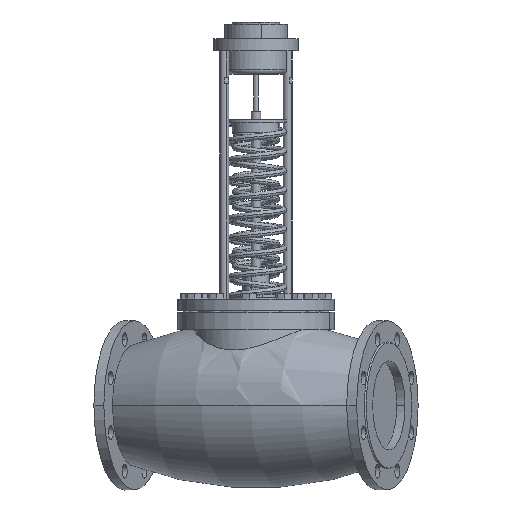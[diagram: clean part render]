
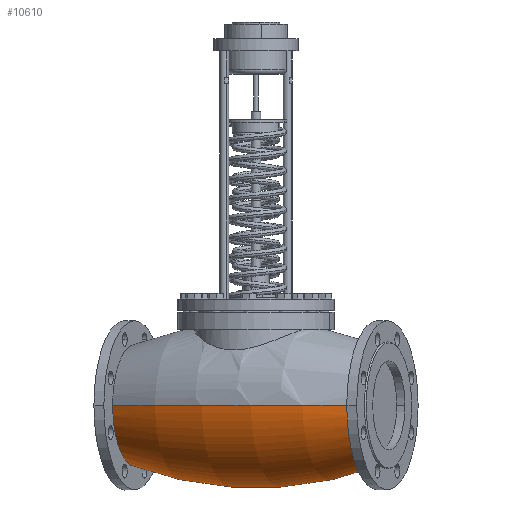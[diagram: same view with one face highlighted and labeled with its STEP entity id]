
A CAD part, left-side view. The second image highlights one B-rep face of the part: STEP entity #10610.
In plain terms, the highlighted toroidal (fillet/blend) face has major radius 528.398 mm and minor radius 667.465 mm.
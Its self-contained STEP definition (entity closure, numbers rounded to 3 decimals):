
#448 = DIRECTION ( 'NONE',  ( 0., 0., 1. ) ) ;
#592 = CIRCLE ( 'NONE', #2939, 667.465 ) ;
#1638 = CARTESIAN_POINT ( 'NONE',  ( 459.384, 0., 101.983 ) ) ;
#2090 = TOROIDAL_SURFACE ( 'NONE', #10260, -528.398, 667.465 ) ;
#2198 = EDGE_CURVE ( 'NONE', #13588, #14658, #592, .T. ) ;
#2564 = DIRECTION ( 'NONE',  ( -1., 0., 0. ) ) ;
#2939 = AXIS2_PLACEMENT_3D ( 'NONE', #6412, #11459, #8747 ) ;
#3003 = CARTESIAN_POINT ( 'NONE',  ( 20.616, 0., 0. ) ) ;
#4705 = DIRECTION ( 'NONE',  ( 0., 0., 1. ) ) ;
#5005 = CIRCLE ( 'NONE', #12388, 667.465 ) ;
#5127 = ORIENTED_EDGE ( 'NONE', *, *, #5666, .T. ) ;
#5473 = CARTESIAN_POINT ( 'NONE',  ( 459.384, 0., -101.983 ) ) ;
#5666 = EDGE_CURVE ( 'NONE', #5998, #13588, #16021, .T. ) ;
#5998 = VERTEX_POINT ( 'NONE', #5473 ) ;
#6322 = CARTESIAN_POINT ( 'NONE',  ( 240., 0., 528.398 ) ) ;
#6412 = CARTESIAN_POINT ( 'NONE',  ( 240., 0., -528.398 ) ) ;
#6918 = CARTESIAN_POINT ( 'NONE',  ( 240., 0., 0. ) ) ;
#7239 = DIRECTION ( 'NONE',  ( 0., 0., -1. ) ) ;
#7768 = EDGE_CURVE ( 'NONE', #5998, #12304, #5005, .T. ) ;
#7809 = CIRCLE ( 'NONE', #11491, 101.983 ) ;
#7958 = CARTESIAN_POINT ( 'NONE',  ( 20.616, 0., 101.983 ) ) ;
#8169 = FACE_OUTER_BOUND ( 'NONE', #13405, .T. ) ;
#8239 = ORIENTED_EDGE ( 'NONE', *, *, #2198, .T. ) ;
#8539 = CARTESIAN_POINT ( 'NONE',  ( 20.616, 0., -101.983 ) ) ;
#8747 = DIRECTION ( 'NONE',  ( 0., 0., -1. ) ) ;
#10165 = CARTESIAN_POINT ( 'NONE',  ( 459.384, 0., 0. ) ) ;
#10179 = AXIS2_PLACEMENT_3D ( 'NONE', #10165, #2564, #12408 ) ;
#10260 = AXIS2_PLACEMENT_3D ( 'NONE', #6918, #12437, #7239 ) ;
#10345 = DIRECTION ( 'NONE',  ( 1., 0., 0. ) ) ;
#10610 = ADVANCED_FACE ( 'NONE', ( #8169 ), #2090, .T. ) ;
#11459 = DIRECTION ( 'NONE',  ( 0., -1., 0. ) ) ;
#11491 = AXIS2_PLACEMENT_3D ( 'NONE', #3003, #10345, #448 ) ;
#11939 = ORIENTED_EDGE ( 'NONE', *, *, #7768, .F. ) ;
#12304 = VERTEX_POINT ( 'NONE', #8539 ) ;
#12388 = AXIS2_PLACEMENT_3D ( 'NONE', #6322, #15042, #4705 ) ;
#12408 = DIRECTION ( 'NONE',  ( 0., 0., 1. ) ) ;
#12437 = DIRECTION ( 'NONE',  ( -1., 0., 0. ) ) ;
#12585 = ORIENTED_EDGE ( 'NONE', *, *, #14608, .T. ) ;
#13405 = EDGE_LOOP ( 'NONE', ( #5127, #8239, #12585, #11939 ) ) ;
#13588 = VERTEX_POINT ( 'NONE', #1638 ) ;
#14608 = EDGE_CURVE ( 'NONE', #14658, #12304, #7809, .T. ) ;
#14658 = VERTEX_POINT ( 'NONE', #7958 ) ;
#15042 = DIRECTION ( 'NONE',  ( 0., 1., 0. ) ) ;
#16021 = CIRCLE ( 'NONE', #10179, 101.983 ) ;
